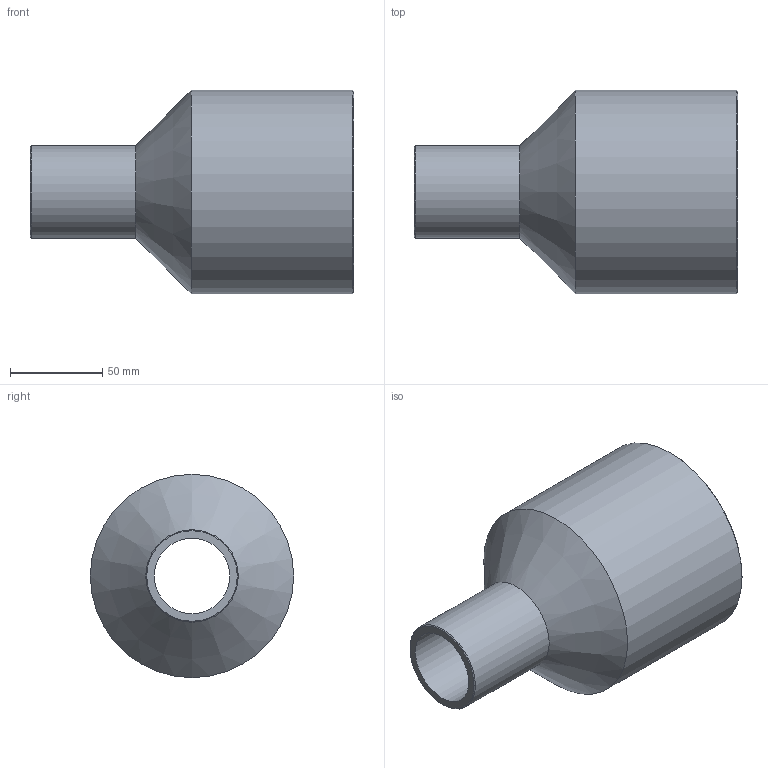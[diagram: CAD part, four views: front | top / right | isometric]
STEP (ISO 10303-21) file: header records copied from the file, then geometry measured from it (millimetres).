
FILE_DESCRIPTION(/* description */ ('Unknown'),/* implementation_level */ '2;1');
FILE_NAME(/* name */ 'RP110050C',/* time_stamp */ '2021-09-17T15:10:57+02:00',/* author */ ('Unknown'),/* organization */ ('Unknown'),/* preprocessor_version */ 'ST-DEVELOPER v16.7',/* originating_system */ 'Solid Edge',/* authorisation */ 'Unknown');
FILE_SCHEMA (('AUTOMOTIVE_DESIGN {1 0 10303 214 3 1 1}'));
Length unit declared in the file: millimetre
Products named in the file (1): RP110050C
Bounding box: 175 x 110 x 110 mm (x, y, z)
Volume: 398031.1 mm3; surface area: 92980.8 mm2
Topology: 1 solids, 1 shells, 10 faces, 19 edges, 11 vertices
Faces by surface type: cylinder 4, cone 4, plane 2
Full cylindrical faces by diameter (mm): 40.8 x1, 50 x1, 90 x1, 110 x1
Entity records: 238 total; most frequent: DIRECTION 42, CARTESIAN_POINT 31, AXIS2_PLACEMENT_3D 21, ORIENTED_EDGE 20, EDGE_LOOP 20, FACE_BOUND 20, EDGE_CURVE 10, VERTEX_POINT 10
